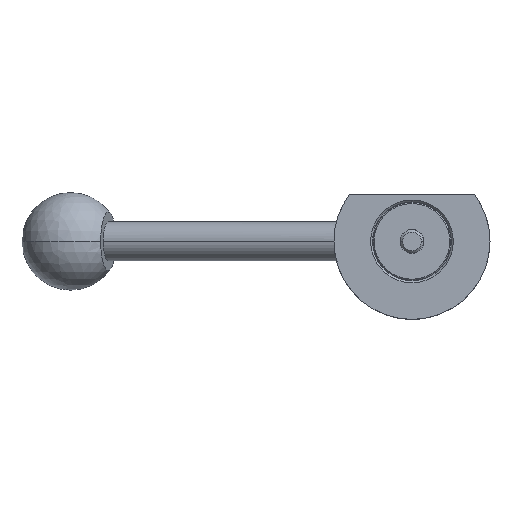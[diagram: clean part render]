
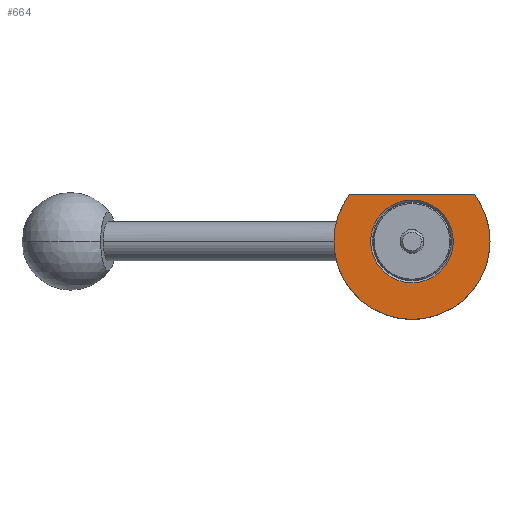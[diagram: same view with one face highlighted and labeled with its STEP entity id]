
A CAD part, front view. The second image highlights one B-rep face of the part: STEP entity #664.
In plain terms, the highlighted planar face has unit normal (0, -1, 0).
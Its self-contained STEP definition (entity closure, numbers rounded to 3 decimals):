
#57 = CARTESIAN_POINT ( 'NONE',  ( -10.6, -10., 11.999 ) ) ;
#71 = DIRECTION ( 'NONE',  ( -1., 0., 0. ) ) ;
#81 = EDGE_LOOP ( 'NONE', ( #903, #934 ) ) ;
#83 = DIRECTION ( 'NONE',  ( 0., 1., 0. ) ) ;
#109 = EDGE_LOOP ( 'NONE', ( #1095, #1968, #124, #1592 ) ) ;
#110 = EDGE_CURVE ( 'NONE', #1437, #692, #850, .T. ) ;
#124 = ORIENTED_EDGE ( 'NONE', *, *, #110, .F. ) ;
#180 = CARTESIAN_POINT ( 'NONE',  ( 20., -10., 0. ) ) ;
#389 = AXIS2_PLACEMENT_3D ( 'NONE', #1659, #83, #1188 ) ;
#511 = EDGE_CURVE ( 'NONE', #538, #692, #1674, .T. ) ;
#538 = VERTEX_POINT ( 'NONE', #840 ) ;
#543 = DIRECTION ( 'NONE',  ( -1., 0., 0. ) ) ;
#547 = DIRECTION ( 'NONE',  ( 0., 1., 0. ) ) ;
#592 = CARTESIAN_POINT ( 'NONE',  ( -10.6, -10., 0. ) ) ;
#664 = ADVANCED_FACE ( 'NONE', ( #904, #843 ), #1554, .T. ) ;
#692 = VERTEX_POINT ( 'NONE', #2050 ) ;
#710 = CARTESIAN_POINT ( 'NONE',  ( -10.6, -10., 0. ) ) ;
#766 = VECTOR ( 'NONE', #543, 1000. ) ;
#840 = CARTESIAN_POINT ( 'NONE',  ( 16.001, -10., 11.999 ) ) ;
#843 = FACE_OUTER_BOUND ( 'NONE', #109, .T. ) ;
#850 = CIRCLE ( 'NONE', #1156, 20. ) ;
#882 = CARTESIAN_POINT ( 'NONE',  ( -20., -10., 0. ) ) ;
#903 = ORIENTED_EDGE ( 'NONE', *, *, #1767, .T. ) ;
#904 = FACE_BOUND ( 'NONE', #81, .T. ) ;
#934 = ORIENTED_EDGE ( 'NONE', *, *, #1165, .T. ) ;
#950 = VERTEX_POINT ( 'NONE', #710 ) ;
#998 = DIRECTION ( 'NONE',  ( 1., 0., 0. ) ) ;
#1095 = ORIENTED_EDGE ( 'NONE', *, *, #1795, .F. ) ;
#1099 = AXIS2_PLACEMENT_3D ( 'NONE', #1804, #547, #1982 ) ;
#1156 = AXIS2_PLACEMENT_3D ( 'NONE', #1227, #1361, #71 ) ;
#1162 = AXIS2_PLACEMENT_3D ( 'NONE', #1640, #1821, #1522 ) ;
#1165 = EDGE_CURVE ( 'NONE', #950, #1910, #1510, .T. ) ;
#1188 = DIRECTION ( 'NONE',  ( -1., 0., 0. ) ) ;
#1227 = CARTESIAN_POINT ( 'NONE',  ( 0., -10., 0. ) ) ;
#1340 = CARTESIAN_POINT ( 'NONE',  ( 10.6, -10., 0. ) ) ;
#1361 = DIRECTION ( 'NONE',  ( 0., 1., 0. ) ) ;
#1415 = DIRECTION ( 'NONE',  ( 0., 1., 0. ) ) ;
#1430 = EDGE_CURVE ( 'NONE', #1709, #1437, #1665, .T. ) ;
#1437 = VERTEX_POINT ( 'NONE', #882 ) ;
#1510 = CIRCLE ( 'NONE', #1568, 10.6 ) ;
#1522 = DIRECTION ( 'NONE',  ( -1., 0., 0. ) ) ;
#1554 = PLANE ( 'NONE',  #1739 ) ;
#1558 = CIRCLE ( 'NONE', #1162, 20. ) ;
#1561 = CARTESIAN_POINT ( 'NONE',  ( 0., -10., 0. ) ) ;
#1568 = AXIS2_PLACEMENT_3D ( 'NONE', #1561, #1415, #1733 ) ;
#1592 = ORIENTED_EDGE ( 'NONE', *, *, #1430, .F. ) ;
#1640 = CARTESIAN_POINT ( 'NONE',  ( 0., -10., 0. ) ) ;
#1659 = CARTESIAN_POINT ( 'NONE',  ( 0., -10., 0. ) ) ;
#1665 = CIRCLE ( 'NONE', #1099, 20. ) ;
#1674 = LINE ( 'NONE', #57, #766 ) ;
#1709 = VERTEX_POINT ( 'NONE', #180 ) ;
#1733 = DIRECTION ( 'NONE',  ( -1., 0., 0. ) ) ;
#1739 = AXIS2_PLACEMENT_3D ( 'NONE', #592, #1873, #998 ) ;
#1767 = EDGE_CURVE ( 'NONE', #1910, #950, #1927, .T. ) ;
#1795 = EDGE_CURVE ( 'NONE', #538, #1709, #1558, .T. ) ;
#1804 = CARTESIAN_POINT ( 'NONE',  ( 0., -10., 0. ) ) ;
#1821 = DIRECTION ( 'NONE',  ( 0., 1., 0. ) ) ;
#1873 = DIRECTION ( 'NONE',  ( 0., -1., 0. ) ) ;
#1910 = VERTEX_POINT ( 'NONE', #1340 ) ;
#1927 = CIRCLE ( 'NONE', #389, 10.6 ) ;
#1968 = ORIENTED_EDGE ( 'NONE', *, *, #511, .T. ) ;
#1982 = DIRECTION ( 'NONE',  ( -1., 0., 0. ) ) ;
#2050 = CARTESIAN_POINT ( 'NONE',  ( -16.001, -10., 11.999 ) ) ;
